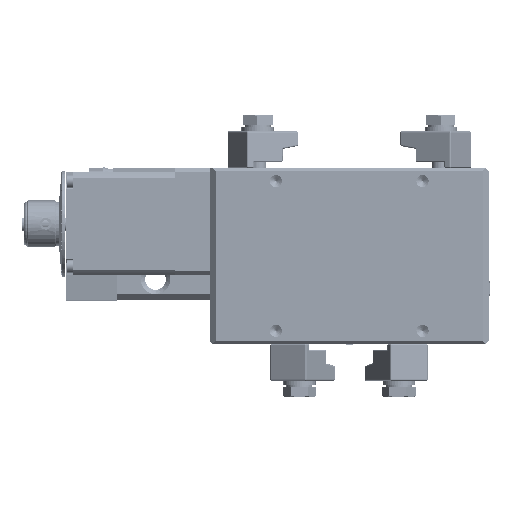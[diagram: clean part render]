
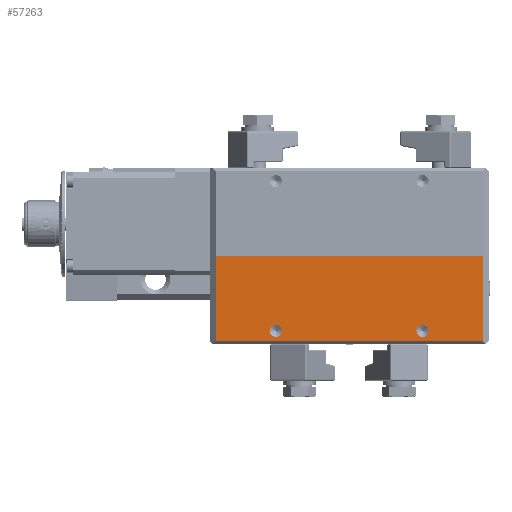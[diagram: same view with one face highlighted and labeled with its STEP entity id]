
A CAD part, left-side view. The second image highlights one B-rep face of the part: STEP entity #57263.
In plain terms, the highlighted planar face has unit normal (-1, 0, 0).
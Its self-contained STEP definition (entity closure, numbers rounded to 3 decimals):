
#2071=FACE_BOUND('',#8765,.T.);
#2072=FACE_BOUND('',#8766,.T.);
#3112=PLANE('',#61214);
#5259=FACE_OUTER_BOUND('',#8764,.T.);
#8764=EDGE_LOOP('',(#42445,#42446,#42447,#42448));
#8765=EDGE_LOOP('',(#42449));
#8766=EDGE_LOOP('',(#42450));
#12340=CIRCLE('',#61069,2.067);
#12342=CIRCLE('',#61073,2.067);
#14677=LINE('',#85075,#19772);
#14679=LINE('',#85079,#19774);
#14711=LINE('',#85239,#19806);
#14712=LINE('',#85240,#19807);
#19772=VECTOR('',#66995,10.);
#19774=VECTOR('',#66999,10.);
#19806=VECTOR('',#67197,10.);
#19807=VECTOR('',#67198,10.);
#26337=VERTEX_POINT('',#84946);
#26339=VERTEX_POINT('',#84952);
#26377=VERTEX_POINT('',#85072);
#26378=VERTEX_POINT('',#85074);
#26379=VERTEX_POINT('',#85078);
#26424=VERTEX_POINT('',#85238);
#32492=EDGE_CURVE('',#26337,#26337,#12340,.T.);
#32494=EDGE_CURVE('',#26339,#26339,#12342,.T.);
#32543=EDGE_CURVE('',#26377,#26378,#14677,.T.);
#32545=EDGE_CURVE('',#26378,#26379,#14679,.T.);
#32616=EDGE_CURVE('',#26424,#26377,#14711,.T.);
#32617=EDGE_CURVE('',#26424,#26379,#14712,.T.);
#42445=ORIENTED_EDGE('',*,*,#32543,.F.);
#42446=ORIENTED_EDGE('',*,*,#32616,.F.);
#42447=ORIENTED_EDGE('',*,*,#32617,.T.);
#42448=ORIENTED_EDGE('',*,*,#32545,.F.);
#42449=ORIENTED_EDGE('',*,*,#32492,.T.);
#42450=ORIENTED_EDGE('',*,*,#32494,.T.);
#57263=ADVANCED_FACE('',(#5259,#2071,#2072),#3112,.T.);
#61069=AXIS2_PLACEMENT_3D('',#84947,#66846,#66847);
#61073=AXIS2_PLACEMENT_3D('',#84953,#66854,#66855);
#61214=AXIS2_PLACEMENT_3D('',#85237,#67195,#67196);
#66846=DIRECTION('center_axis',(1.,0.,0.));
#66847=DIRECTION('ref_axis',(0.,0.,1.));
#66854=DIRECTION('center_axis',(1.,0.,0.));
#66855=DIRECTION('ref_axis',(0.,0.,1.));
#66995=DIRECTION('',(0.,1.,0.));
#66999=DIRECTION('',(0.,0.,1.));
#67195=DIRECTION('center_axis',(-1.,0.,0.));
#67196=DIRECTION('ref_axis',(0.,0.,1.));
#67197=DIRECTION('',(0.,0.,-1.));
#67198=DIRECTION('',(0.,1.,0.));
#84946=CARTESIAN_POINT('',(-47.5,25.,6.567));
#84947=CARTESIAN_POINT('Origin',(-47.5,25.,4.5));
#84952=CARTESIAN_POINT('',(-47.5,-25.,6.567));
#84953=CARTESIAN_POINT('Origin',(-47.5,-25.,4.5));
#85072=CARTESIAN_POINT('',(-47.5,-45.5,1.));
#85074=CARTESIAN_POINT('',(-47.5,45.5,1.));
#85075=CARTESIAN_POINT('',(-47.5,-23.75,1.));
#85078=CARTESIAN_POINT('',(-47.5,45.5,30.));
#85079=CARTESIAN_POINT('',(-47.5,45.5,0.));
#85237=CARTESIAN_POINT('Origin',(-47.5,-47.5,0.));
#85238=CARTESIAN_POINT('',(-47.5,-45.5,30.));
#85239=CARTESIAN_POINT('',(-47.5,-45.5,0.));
#85240=CARTESIAN_POINT('',(-47.5,47.5,30.));
